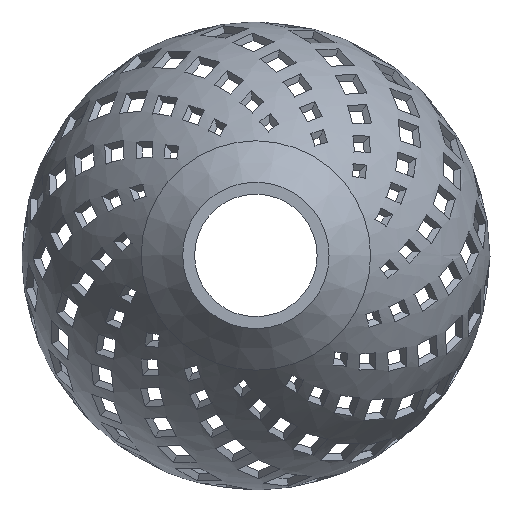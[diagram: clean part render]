
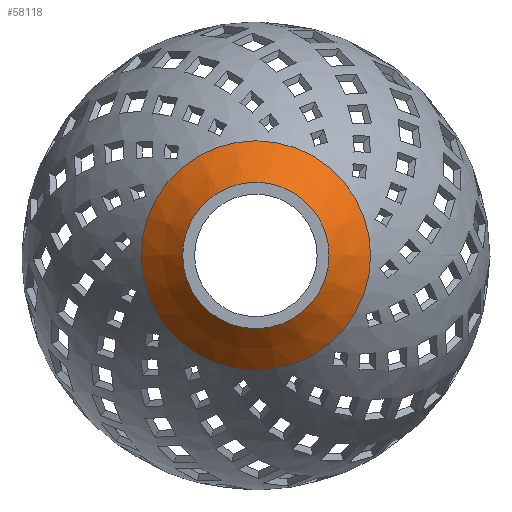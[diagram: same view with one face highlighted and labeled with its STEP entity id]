
A CAD part, top view. The second image highlights one B-rep face of the part: STEP entity #58118.
In plain terms, the highlighted conical face has half-angle 43.067 degrees and reference radius 38 mm.
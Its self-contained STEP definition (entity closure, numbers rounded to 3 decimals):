
#108 = SURFACE_OF_REVOLUTION('',#109,#118);
#109 = B_SPLINE_CURVE_WITH_KNOTS('',3,(#110,#111,#112,#113,#114,#115,
    #116,#117),.UNSPECIFIED.,.F.,.F.,(4,1,1,1,1,4),(0.,22.277,
    50.388,84.226,114.755,131.959),
  .UNSPECIFIED.);
#110 = CARTESIAN_POINT('',(74.,0.,0.));
#111 = CARTESIAN_POINT('',(76.08,0.,7.209));
#112 = CARTESIAN_POINT('',(78.629,0.,23.892));
#113 = CARTESIAN_POINT('',(75.756,0.,52.121));
#114 = CARTESIAN_POINT('',(65.703,0.,81.654));
#115 = CARTESIAN_POINT('',(50.675,0.,104.444));
#116 = CARTESIAN_POINT('',(41.342,-0.,117.373));
#117 = CARTESIAN_POINT('',(38.,0.,122.));
#118 = AXIS1_PLACEMENT('',#119,#120);
#119 = CARTESIAN_POINT('',(0.,0.,0.));
#120 = DIRECTION('',(0.,0.,1.));
#7645 = VERTEX_POINT('',#7646);
#7646 = CARTESIAN_POINT('',(38.,0.,122.));
#7672 = EDGE_CURVE('',#7645,#7645,#7673,.T.);
#7673 = SURFACE_CURVE('',#7674,(#7679,#7686),.PCURVE_S1.);
#7674 = CIRCLE('',#7675,38.);
#7675 = AXIS2_PLACEMENT_3D('',#7676,#7677,#7678);
#7676 = CARTESIAN_POINT('',(0.,0.,122.));
#7677 = DIRECTION('',(0.,0.,1.));
#7678 = DIRECTION('',(1.,0.,-0.));
#7679 = PCURVE('',#108,#7680);
#7680 = DEFINITIONAL_REPRESENTATION('',(#7681),#7685);
#7681 = LINE('',#7682,#7683);
#7682 = CARTESIAN_POINT('',(0.,131.959));
#7683 = VECTOR('',#7684,1.);
#7684 = DIRECTION('',(1.,0.));
#7685 = ( GEOMETRIC_REPRESENTATION_CONTEXT(2) 
PARAMETRIC_REPRESENTATION_CONTEXT() REPRESENTATION_CONTEXT('2D SPACE',''
  ) );
#7686 = PCURVE('',#7687,#7692);
#7687 = CONICAL_SURFACE('',#7688,38.,0.752);
#7688 = AXIS2_PLACEMENT_3D('',#7689,#7690,#7691);
#7689 = CARTESIAN_POINT('',(0.,0.,122.));
#7690 = DIRECTION('',(-0.,-0.,-1.));
#7691 = DIRECTION('',(1.,0.,-0.));
#7692 = DEFINITIONAL_REPRESENTATION('',(#7693),#7697);
#7693 = LINE('',#7694,#7695);
#7694 = CARTESIAN_POINT('',(-0.,-0.));
#7695 = VECTOR('',#7696,1.);
#7696 = DIRECTION('',(-1.,-0.));
#7697 = ( GEOMETRIC_REPRESENTATION_CONTEXT(2) 
PARAMETRIC_REPRESENTATION_CONTEXT() REPRESENTATION_CONTEXT('2D SPACE',''
  ) );
#58118 = ADVANCED_FACE('',(#58119),#7687,.T.);
#58119 = FACE_BOUND('',#58120,.T.);
#58120 = EDGE_LOOP('',(#58121,#58122,#58145,#58172));
#58121 = ORIENTED_EDGE('',*,*,#7672,.T.);
#58122 = ORIENTED_EDGE('',*,*,#58123,.T.);
#58123 = EDGE_CURVE('',#7645,#58124,#58126,.T.);
#58124 = VERTEX_POINT('',#58125);
#58125 = CARTESIAN_POINT('',(24.26,0.,136.7));
#58126 = SEAM_CURVE('',#58127,(#58131,#58138),.PCURVE_S1.);
#58127 = LINE('',#58128,#58129);
#58128 = CARTESIAN_POINT('',(38.,0.,122.));
#58129 = VECTOR('',#58130,1.);
#58130 = DIRECTION('',(-0.683,0.,0.731));
#58131 = PCURVE('',#7687,#58132);
#58132 = DEFINITIONAL_REPRESENTATION('',(#58133),#58137);
#58133 = LINE('',#58134,#58135);
#58134 = CARTESIAN_POINT('',(-0.,-0.));
#58135 = VECTOR('',#58136,1.);
#58136 = DIRECTION('',(-0.,-1.));
#58137 = ( GEOMETRIC_REPRESENTATION_CONTEXT(2) 
PARAMETRIC_REPRESENTATION_CONTEXT() REPRESENTATION_CONTEXT('2D SPACE',''
  ) );
#58138 = PCURVE('',#7687,#58139);
#58139 = DEFINITIONAL_REPRESENTATION('',(#58140),#58144);
#58140 = LINE('',#58141,#58142);
#58141 = CARTESIAN_POINT('',(-6.283,-0.));
#58142 = VECTOR('',#58143,1.);
#58143 = DIRECTION('',(-0.,-1.));
#58144 = ( GEOMETRIC_REPRESENTATION_CONTEXT(2) 
PARAMETRIC_REPRESENTATION_CONTEXT() REPRESENTATION_CONTEXT('2D SPACE',''
  ) );
#58145 = ORIENTED_EDGE('',*,*,#58146,.F.);
#58146 = EDGE_CURVE('',#58124,#58124,#58147,.T.);
#58147 = SURFACE_CURVE('',#58148,(#58153,#58160),.PCURVE_S1.);
#58148 = CIRCLE('',#58149,24.26);
#58149 = AXIS2_PLACEMENT_3D('',#58150,#58151,#58152);
#58150 = CARTESIAN_POINT('',(0.,0.,136.7));
#58151 = DIRECTION('',(0.,0.,1.));
#58152 = DIRECTION('',(1.,0.,-0.));
#58153 = PCURVE('',#7687,#58154);
#58154 = DEFINITIONAL_REPRESENTATION('',(#58155),#58159);
#58155 = LINE('',#58156,#58157);
#58156 = CARTESIAN_POINT('',(-0.,-14.7));
#58157 = VECTOR('',#58158,1.);
#58158 = DIRECTION('',(-1.,-0.));
#58159 = ( GEOMETRIC_REPRESENTATION_CONTEXT(2) 
PARAMETRIC_REPRESENTATION_CONTEXT() REPRESENTATION_CONTEXT('2D SPACE',''
  ) );
#58160 = PCURVE('',#58161,#58166);
#58161 = PLANE('',#58162);
#58162 = AXIS2_PLACEMENT_3D('',#58163,#58164,#58165);
#58163 = CARTESIAN_POINT('',(0.,0.,136.7));
#58164 = DIRECTION('',(0.,0.,1.));
#58165 = DIRECTION('',(1.,0.,-0.));
#58166 = DEFINITIONAL_REPRESENTATION('',(#58167),#58171);
#58167 = CIRCLE('',#58168,24.26);
#58168 = AXIS2_PLACEMENT_2D('',#58169,#58170);
#58169 = CARTESIAN_POINT('',(0.,0.));
#58170 = DIRECTION('',(1.,0.));
#58171 = ( GEOMETRIC_REPRESENTATION_CONTEXT(2) 
PARAMETRIC_REPRESENTATION_CONTEXT() REPRESENTATION_CONTEXT('2D SPACE',''
  ) );
#58172 = ORIENTED_EDGE('',*,*,#58123,.F.);
